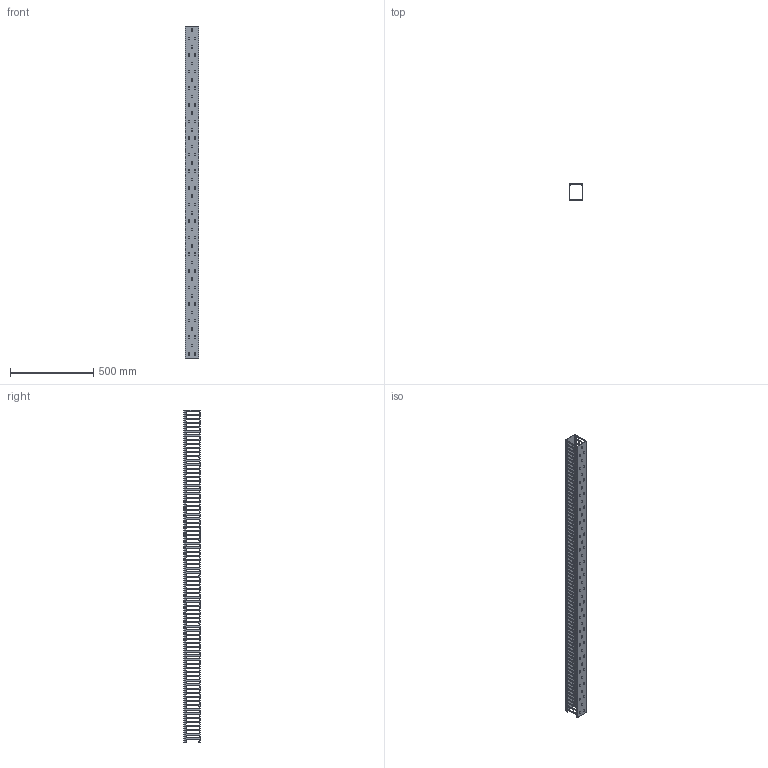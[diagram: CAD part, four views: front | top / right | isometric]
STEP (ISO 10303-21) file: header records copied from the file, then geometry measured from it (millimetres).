
FILE_DESCRIPTION (( 'STEP AP214' ), '1' );
FILE_NAME ('KD-810-20-LL.STEP', '2020-02-19T01:48:00', ( '' ), ( '' ), 'SwSTEP 2.0', 'SolidWorks 2018', '' );
FILE_SCHEMA (( 'AUTOMOTIVE_DESIGN' ));
Length unit declared in the file: millimetre
Products named in the file (3): KD-810-20-LL; KD-810-20-LL-body; KD-86-20-cover
Assembly tree (2 placements, depth 2):
  KD-810-20-LL
    KD-810-20-LL-body
    KD-86-20-cover
Bounding box: 80 x 100.17 x 2000 mm (x, y, z)
Volume: 935446 mm3; surface area: 1196270.4 mm2
Topology: 2 solids, 2 shells, 1643 faces, 4917 edges, 3278 vertices
Faces by surface type: cylinder 857, plane 786
Entity records: 56827 total; most frequent: DIRECTION 9927, CARTESIAN_POINT 9843, ORIENTED_EDGE 9834, EDGE_CURVE 4917, AXIS2_PLACEMENT_3D 3362, VERTEX_POINT 3278, VECTOR 3203, LINE 3203
